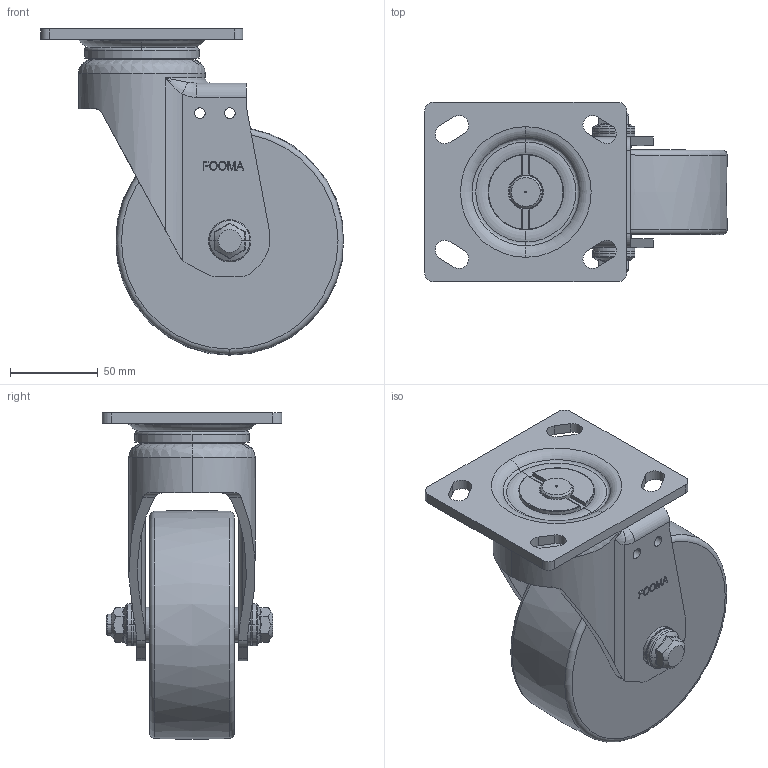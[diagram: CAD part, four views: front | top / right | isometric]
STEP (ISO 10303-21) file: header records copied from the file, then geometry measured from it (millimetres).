
FILE_DESCRIPTION((''),'2;1');
FILE_NAME('GH-130-ASF-MCD.stp','2013-04-30T16:30:46',(''),(''),'Mechanical Desktop 2009','Mechanical Desktop 2009',', , ');
FILE_SCHEMA(('CONFIG_CONTROL_DESIGN'));
Length unit declared in the file: millimetre
Products named in the file (2): GH-130-ASF-MCD; PLATE
Assembly tree (1 placements, depth 2):
  GH-130-ASF-MCD
    PLATE
Bounding box: 172.05 x 102 x 185.45 mm (x, y, z)
Volume: 868222.2 mm3; surface area: 131920.8 mm2
Topology: 1 solids, 6 shells, 521 faces, 1359 edges, 883 vertices
Faces by surface type: bspline 209, plane 147, cylinder 100, torus 43, cone 22
Entity records: 19817 total; most frequent: CARTESIAN_POINT 8013, ORIENTED_EDGE 2710, DIRECTION 1970, EDGE_CURVE 1355, VERTEX_POINT 883, AXIS2_PLACEMENT_3D 721, EDGE_LOOP 586, VECTOR 528
